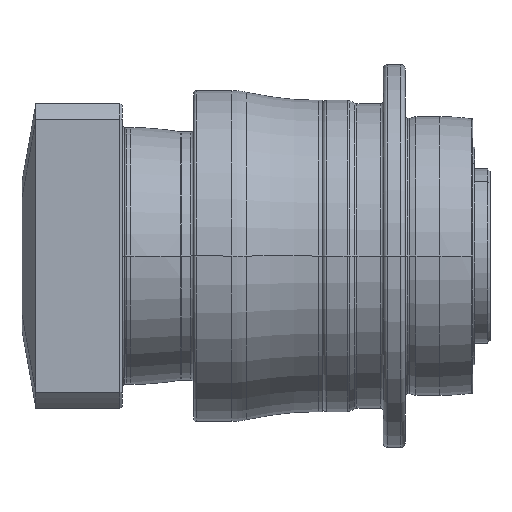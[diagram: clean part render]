
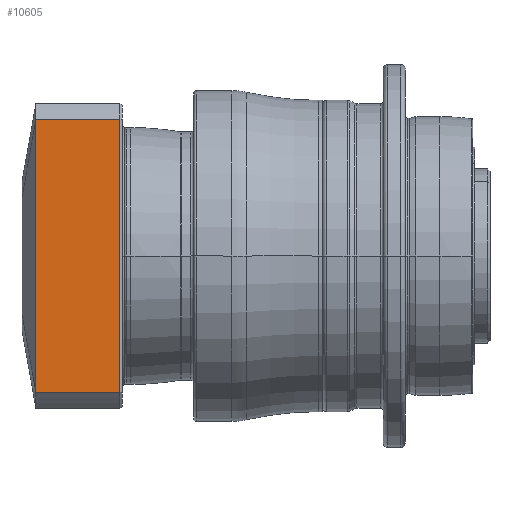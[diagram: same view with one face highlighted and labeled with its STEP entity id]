
A CAD part, front view. The second image highlights one B-rep face of the part: STEP entity #10605.
In plain terms, the highlighted planar face has unit normal (0, -1, 0) as drawn and (0, 1, 0) by its records, which use the part's own axes.
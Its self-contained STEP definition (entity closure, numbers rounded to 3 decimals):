
#9200=CARTESIAN_POINT('',(-31.369,35.,21.8));
#9202=DIRECTION('',(-1.,0.,0.));
#9203=VECTOR('',#9202,62.738);
#9204=CARTESIAN_POINT('',(31.369,35.,21.8));
#9205=LINE('',#9204,#9203);
#9206=DIRECTION('',(0.,0.,1.));
#9207=VECTOR('',#9206,19.3);
#9208=CARTESIAN_POINT('',(-31.369,35.,2.5));
#9209=LINE('',#9208,#9207);
#9210=DIRECTION('',(0.,0.,1.));
#9211=VECTOR('',#9210,19.3);
#9212=CARTESIAN_POINT('',(31.369,35.,2.5));
#9213=LINE('',#9212,#9211);
#9234=DIRECTION('',(-1.,0.,0.));
#9235=VECTOR('',#9234,62.738);
#9236=CARTESIAN_POINT('',(31.369,35.,2.5));
#9237=LINE('',#9236,#9235);
#9386=CARTESIAN_POINT('',(31.369,35.,2.5));
#9387=CARTESIAN_POINT('',(-31.369,35.,2.5));
#9388=VERTEX_POINT('',#9386);
#9389=VERTEX_POINT('',#9387);
#9443=CARTESIAN_POINT('',(31.369,35.,21.8));
#9445=VERTEX_POINT('',#9443);
#9447=VERTEX_POINT('',#9200);
#10591=CARTESIAN_POINT('',(35.,35.,0.));
#10592=DIRECTION('',(0.,1.,0.));
#10593=DIRECTION('',(-1.,0.,0.));
#10594=AXIS2_PLACEMENT_3D('',#10591,#10592,#10593);
#10595=PLANE('',#10594);
#10596=ORIENTED_EDGE('',*,*,#10586,.T.);
#10598=ORIENTED_EDGE('',*,*,#10597,.F.);
#10600=ORIENTED_EDGE('',*,*,#10599,.F.);
#10602=ORIENTED_EDGE('',*,*,#10601,.T.);
#10603=EDGE_LOOP('',(#10596,#10598,#10600,#10602));
#10604=FACE_OUTER_BOUND('',#10603,.F.);
#10605=ADVANCED_FACE('',(#10604),#10595,.T.);
#10586=EDGE_CURVE('',#9445,#9447,#9205,.T.);
#10597=EDGE_CURVE('',#9389,#9447,#9209,.T.);
#10599=EDGE_CURVE('',#9388,#9389,#9237,.T.);
#10601=EDGE_CURVE('',#9388,#9445,#9213,.T.);
